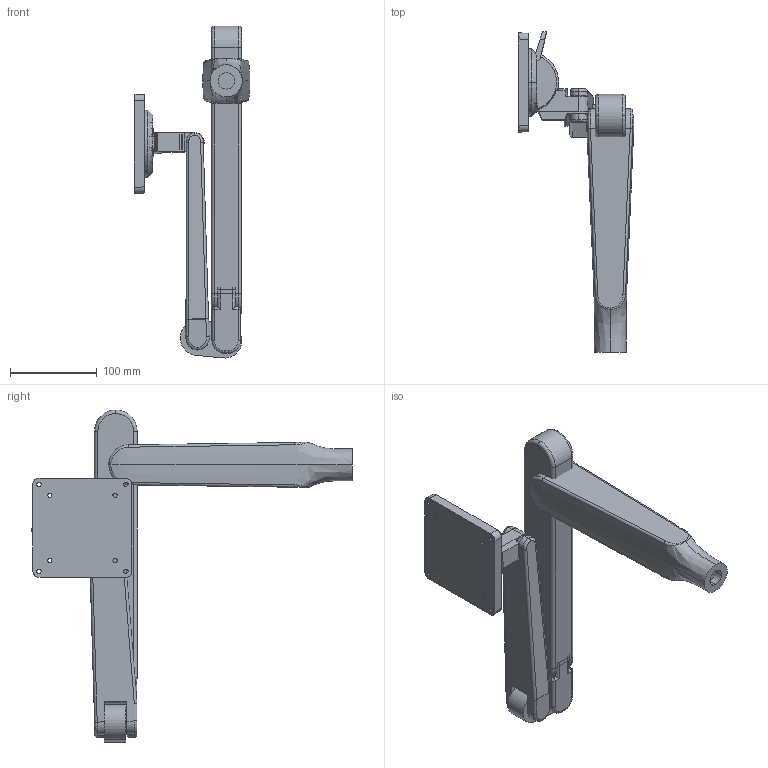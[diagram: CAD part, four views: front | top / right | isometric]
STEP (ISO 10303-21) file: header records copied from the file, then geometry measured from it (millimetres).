
FILE_DESCRIPTION (( 'STEP AP214' ), '1' );
FILE_NAME ('OLN-009-010.STEP', '2024-09-12T11:20:04', ( '' ), ( '' ), 'SwSTEP 2.0', 'SolidWorks 2022', '' );
FILE_SCHEMA (( 'AUTOMOTIVE_DESIGN' ));
Length unit declared in the file: millimetre
Products named in the file (1): OLN-009-010
Bounding box: 133.04 x 368.55 x 381.77 mm (x, y, z)
Volume: 1659215.2 mm3; surface area: 219264.9 mm2
Topology: 8 solids, 8 shells, 297 faces, 753 edges, 472 vertices
Faces by surface type: cylinder 92, plane 80, cone 50, bspline 43, torus 26, sphere 6
Entity records: 22809 total; most frequent: CARTESIAN_POINT 12644, ORIENTED_EDGE 1486, DIRECTION 1330, EDGE_CURVE 743, AXIS2_PLACEMENT_3D 523, VERTEX_POINT 470, EDGE_LOOP 327, UNCERTAINTY_MEASURE_WITH_UNIT 307
